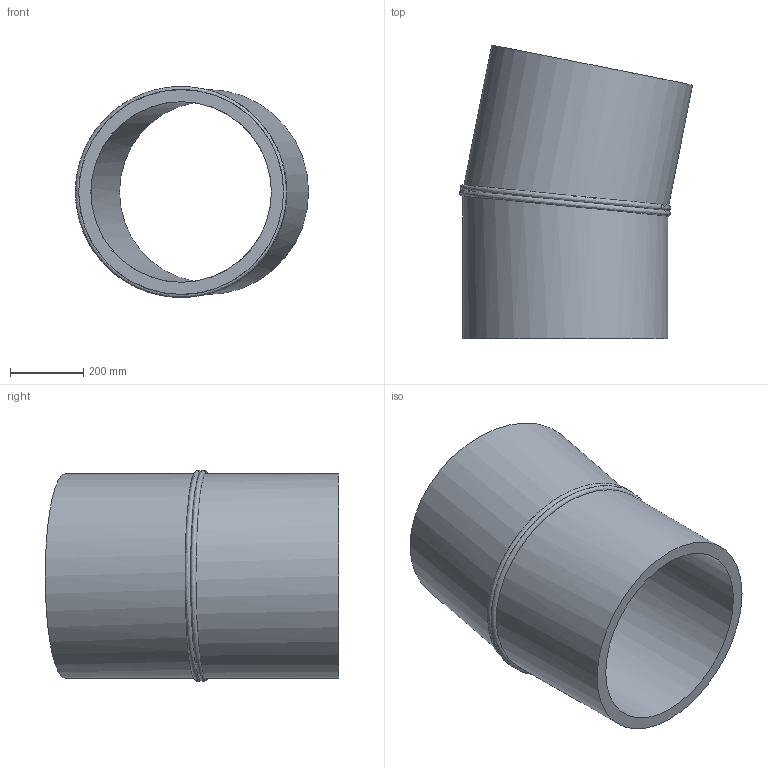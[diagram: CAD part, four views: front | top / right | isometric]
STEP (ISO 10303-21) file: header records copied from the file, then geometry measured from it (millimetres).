
FILE_DESCRIPTION(/* description */ ('Unknown'),/* implementation_level */ '2;1');
FILE_NAME(/* name */ 'Curva 11.25° a settore DE560 SDR17',/* time_stamp */ '2022-07-22T15:26:31+02:00',/* author */ ('Unknown'),/* organization */ ('Unknown'),/* preprocessor_version */ 'ST-DEVELOPER v18.102',/* originating_system */ 'Solid Edge',/* authorisation */ 'Unknown');
FILE_SCHEMA (('AUTOMOTIVE_DESIGN {1 0 10303 214 3 1 1}'));
Length unit declared in the file: millimetre
Products named in the file (2): Curva 11.25° a settore DE560 SDR17; Tubo x Gomito 11.25° DE560 SDR17
Assembly tree (2 placements, depth 2):
  Curva 11.25° a settore DE560 SDR17
    Tubo x Gomito 11.25° DE560 SDR17  x2
Bounding box: 637.24 x 802.53 x 576.45 mm (x, y, z)
Volume: 41847627.6 mm3; surface area: 2757271.8 mm2
Topology: 2 solids, 2 shells, 10 faces, 20 edges, 14 vertices
Faces by surface type: cylinder 4, plane 4, bspline 2
Full cylindrical faces by diameter (mm): 493.6 x2, 560 x2
Entity records: 1289 total; most frequent: CARTESIAN_POINT 1152, DIRECTION 20, ORIENTED_EDGE 10, EDGE_LOOP 10, FACE_BOUND 10, AXIS2_PLACEMENT_3D 10, EDGE_CURVE 5, VERTEX_POINT 5
